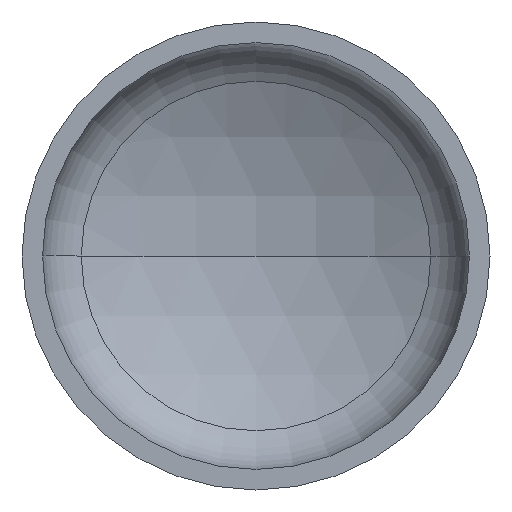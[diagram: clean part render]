
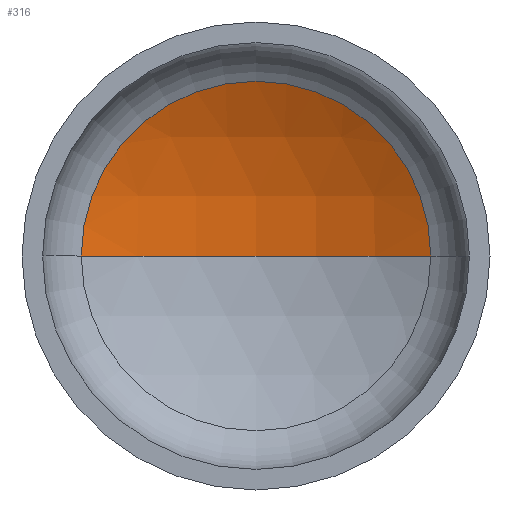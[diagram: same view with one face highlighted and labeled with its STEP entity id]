
A CAD part, front view. The second image highlights one B-rep face of the part: STEP entity #316.
In plain terms, the highlighted spherical face has radius 1600 mm.
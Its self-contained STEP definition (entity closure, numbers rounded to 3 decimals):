
#1 = AXIS2_PLACEMENT_3D ( 'NONE', #155, #119, #121 ) ;
#2 = EDGE_LOOP ( 'NONE', ( #97, #153, #83 ) ) ;
#6 = AXIS2_PLACEMENT_3D ( 'NONE', #114, #133, #394 ) ;
#10 = AXIS2_PLACEMENT_3D ( 'NONE', #84, #125, #126 ) ;
#41 = AXIS2_PLACEMENT_3D ( 'NONE', #237, #128, #326 ) ;
#83 = ORIENTED_EDGE ( 'NONE', *, *, #89, .T. ) ;
#84 = CARTESIAN_POINT ( 'NONE',  ( 0., -1040.919, 0. ) ) ;
#87 = CARTESIAN_POINT ( 'NONE',  ( -746.667, 374.174, 0. ) ) ;
#89 = EDGE_CURVE ( 'NONE', #193, #180, #241, .T. ) ;
#95 = CIRCLE ( 'NONE', #10, 1600. ) ;
#97 = ORIENTED_EDGE ( 'NONE', *, *, #355, .F. ) ;
#106 = SPHERICAL_SURFACE ( 'NONE', #6, 1600. ) ;
#114 = CARTESIAN_POINT ( 'NONE',  ( 0., -1040.919, 0. ) ) ;
#119 = DIRECTION ( 'NONE',  ( 0., 0., 1. ) ) ;
#121 = DIRECTION ( 'NONE',  ( 1., 0., 0. ) ) ;
#125 = DIRECTION ( 'NONE',  ( 0., 0., -1. ) ) ;
#126 = DIRECTION ( 'NONE',  ( -1., 0., 0. ) ) ;
#128 = DIRECTION ( 'NONE',  ( 0., -1., 0. ) ) ;
#133 = DIRECTION ( 'NONE',  ( 0., 0., -1. ) ) ;
#143 = VERTEX_POINT ( 'NONE', #301 ) ;
#153 = ORIENTED_EDGE ( 'NONE', *, *, #347, .T. ) ;
#155 = CARTESIAN_POINT ( 'NONE',  ( 0., -1040.919, 0. ) ) ;
#180 = VERTEX_POINT ( 'NONE', #87 ) ;
#193 = VERTEX_POINT ( 'NONE', #252 ) ;
#237 = CARTESIAN_POINT ( 'NONE',  ( 0., 374.174, 0. ) ) ;
#241 = CIRCLE ( 'NONE', #41, 746.667 ) ;
#252 = CARTESIAN_POINT ( 'NONE',  ( 746.667, 374.174, 0. ) ) ;
#289 = FACE_OUTER_BOUND ( 'NONE', #2, .T. ) ;
#301 = CARTESIAN_POINT ( 'NONE',  ( 0., 559.081, 0. ) ) ;
#316 = ADVANCED_FACE ( 'NONE', ( #289 ), #106, .F. ) ;
#326 = DIRECTION ( 'NONE',  ( 1., 0., 0. ) ) ;
#342 = CIRCLE ( 'NONE', #1, 1600. ) ;
#347 = EDGE_CURVE ( 'NONE', #143, #193, #95, .T. ) ;
#355 = EDGE_CURVE ( 'NONE', #143, #180, #342, .T. ) ;
#394 = DIRECTION ( 'NONE',  ( -1., 0., 0. ) ) ;
